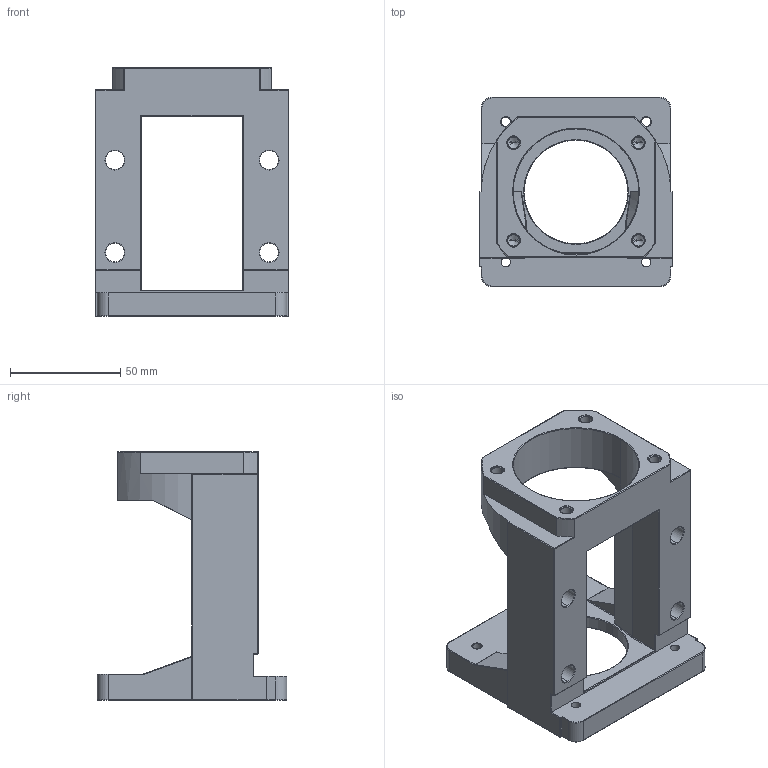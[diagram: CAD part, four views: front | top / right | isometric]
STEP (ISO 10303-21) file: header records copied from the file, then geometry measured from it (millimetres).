
FILE_DESCRIPTION (( 'STEP AP203' ), '1' );
FILE_NAME ('傳動座MBL20-EP.STEP', '2017-12-28T06:19:04', ( '' ), ( '' ), 'SwSTEP 2.0', 'SolidWorks 2017', '' );
FILE_SCHEMA (( 'CONFIG_CONTROL_DESIGN' ));
Length unit declared in the file: millimetre
Products named in the file (1): 傳動座MBL20-EP
Bounding box: 88 x 86 x 113 mm (x, y, z)
Volume: 196325 mm3; surface area: 50772.7 mm2
Topology: 1 solids, 1 shells, 245 faces, 595 edges, 338 vertices
Faces by surface type: cylinder 109, torus 54, plane 44, cone 26, sphere 12
Entity records: 7132 total; most frequent: CARTESIAN_POINT 1339, DIRECTION 1299, ORIENTED_EDGE 1150, EDGE_CURVE 575, AXIS2_PLACEMENT_3D 526, VERTEX_POINT 338, CIRCLE 280, EDGE_LOOP 273
